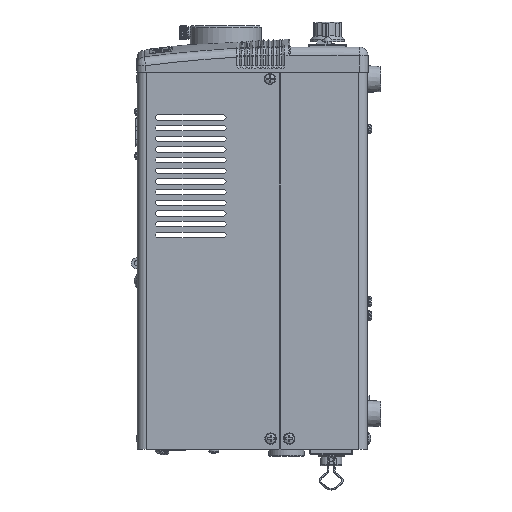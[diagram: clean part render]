
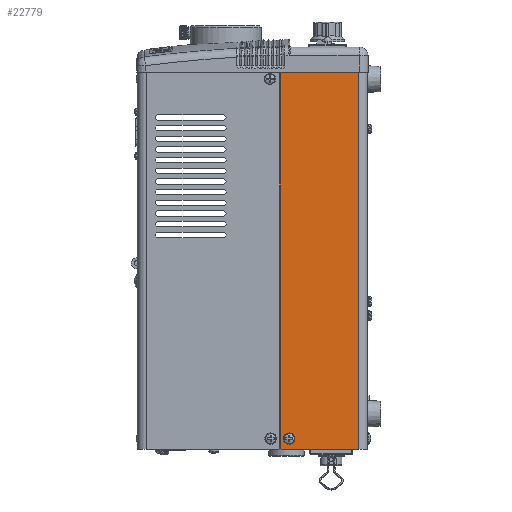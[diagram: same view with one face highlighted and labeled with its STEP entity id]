
A CAD part, left-side view. The second image highlights one B-rep face of the part: STEP entity #22779.
In plain terms, the highlighted planar face has unit normal (-1, 0, 0).
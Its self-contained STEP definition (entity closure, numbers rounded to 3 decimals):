
#1754 = VERTEX_POINT ( 'NONE', #124947 ) ;
#2674 = VERTEX_POINT ( 'NONE', #191480 ) ;
#7396 = PLANE ( 'NONE',  #55849 ) ;
#7995 = CARTESIAN_POINT ( 'NONE',  ( -57.5, -16.7, 0. ) ) ;
#13062 = CARTESIAN_POINT ( 'NONE',  ( -57.5, -20.7, -209.25 ) ) ;
#14444 = CARTESIAN_POINT ( 'NONE',  ( -57.5, -15.7, -211. ) ) ;
#16389 = VECTOR ( 'NONE', #88729, 1000. ) ;
#20531 = VERTEX_POINT ( 'NONE', #160945 ) ;
#22779 = ADVANCED_FACE ( 'NONE', ( #124287, #167290 ), #7396, .F. ) ;
#26968 = ORIENTED_EDGE ( 'NONE', *, *, #136898, .T. ) ;
#28103 = LINE ( 'NONE', #55151, #66036 ) ;
#31361 = AXIS2_PLACEMENT_3D ( 'NONE', #149328, #52442, #165515 ) ;
#31610 = AXIS2_PLACEMENT_3D ( 'NONE', #159711, #62921, #176021 ) ;
#34277 = DIRECTION ( 'NONE',  ( -1., 0., 0. ) ) ;
#34755 = ORIENTED_EDGE ( 'NONE', *, *, #113936, .T. ) ;
#39975 = DIRECTION ( 'NONE',  ( 1., 0., 0. ) ) ;
#46219 = DIRECTION ( 'NONE',  ( 0., 0., 1. ) ) ;
#52442 = DIRECTION ( 'NONE',  ( -1., 0., 0. ) ) ;
#52559 = VECTOR ( 'NONE', #141368, 1000. ) ;
#53800 = ORIENTED_EDGE ( 'NONE', *, *, #99850, .F. ) ;
#55151 = CARTESIAN_POINT ( 'NONE',  ( -57.5, -64.7, -212. ) ) ;
#55849 = AXIS2_PLACEMENT_3D ( 'NONE', #120518, #39975, #153064 ) ;
#62486 = CARTESIAN_POINT ( 'NONE',  ( -57.5, -59.7, 0. ) ) ;
#62921 = DIRECTION ( 'NONE',  ( -1., 0., 0. ) ) ;
#66036 = VECTOR ( 'NONE', #185227, 1000. ) ;
#72211 = CIRCLE ( 'NONE', #202607, 1. ) ;
#73968 = CIRCLE ( 'NONE', #31610, 3.25 ) ;
#75711 = EDGE_CURVE ( 'NONE', #121665, #97353, #145475, .T. ) ;
#80461 = LINE ( 'NONE', #62486, #128548 ) ;
#82989 = EDGE_CURVE ( 'NONE', #1754, #2674, #80461, .T. ) ;
#88729 = DIRECTION ( 'NONE',  ( 0., 0., -1. ) ) ;
#96394 = CARTESIAN_POINT ( 'NONE',  ( -57.5, -16.7, -211. ) ) ;
#97353 = VERTEX_POINT ( 'NONE', #14444 ) ;
#99850 = EDGE_CURVE ( 'NONE', #127640, #20531, #73968, .T. ) ;
#99882 = CARTESIAN_POINT ( 'NONE',  ( -57.5, -16.7, -212. ) ) ;
#105367 = VERTEX_POINT ( 'NONE', #7995 ) ;
#106709 = EDGE_CURVE ( 'NONE', #20531, #127640, #150984, .T. ) ;
#108388 = CARTESIAN_POINT ( 'NONE',  ( -57.5, -15.7, -1. ) ) ;
#112627 = DIRECTION ( 'NONE',  ( 0., 0., -1. ) ) ;
#113936 = EDGE_CURVE ( 'NONE', #158657, #1754, #28103, .T. ) ;
#120518 = CARTESIAN_POINT ( 'NONE',  ( -57.5, -64.7, 0. ) ) ;
#121665 = VERTEX_POINT ( 'NONE', #108388 ) ;
#124287 = FACE_BOUND ( 'NONE', #166413, .T. ) ;
#124947 = CARTESIAN_POINT ( 'NONE',  ( -57.5, -59.7, -212. ) ) ;
#125076 = CARTESIAN_POINT ( 'NONE',  ( -57.5, -64.7, 0. ) ) ;
#127640 = VERTEX_POINT ( 'NONE', #13062 ) ;
#128548 = VECTOR ( 'NONE', #46219, 1000. ) ;
#131121 = CARTESIAN_POINT ( 'NONE',  ( -57.5, -20.7, -206. ) ) ;
#131515 = ORIENTED_EDGE ( 'NONE', *, *, #143735, .T. ) ;
#136898 = EDGE_CURVE ( 'NONE', #97353, #158657, #72211, .T. ) ;
#141368 = DIRECTION ( 'NONE',  ( 0., -1., 0. ) ) ;
#143735 = EDGE_CURVE ( 'NONE', #105367, #121665, #193695, .T. ) ;
#145475 = LINE ( 'NONE', #169336, #16389 ) ;
#147420 = DIRECTION ( 'NONE',  ( 0., 0., 1. ) ) ;
#149026 = AXIS2_PLACEMENT_3D ( 'NONE', #131121, #34277, #147420 ) ;
#149328 = CARTESIAN_POINT ( 'NONE',  ( -57.5, -16.7, -1. ) ) ;
#150984 = CIRCLE ( 'NONE', #149026, 3.25 ) ;
#151743 = ORIENTED_EDGE ( 'NONE', *, *, #106709, .F. ) ;
#152975 = EDGE_CURVE ( 'NONE', #105367, #2674, #171459, .T. ) ;
#153064 = DIRECTION ( 'NONE',  ( 0., 0., -1. ) ) ;
#156124 = EDGE_LOOP ( 'NONE', ( #198978, #26968, #34755, #170004, #186372, #131515 ) ) ;
#158657 = VERTEX_POINT ( 'NONE', #99882 ) ;
#159711 = CARTESIAN_POINT ( 'NONE',  ( -57.5, -20.7, -206. ) ) ;
#160945 = CARTESIAN_POINT ( 'NONE',  ( -57.5, -20.7, -202.75 ) ) ;
#165515 = DIRECTION ( 'NONE',  ( 0., 0., -1. ) ) ;
#166413 = EDGE_LOOP ( 'NONE', ( #151743, #53800 ) ) ;
#167290 = FACE_OUTER_BOUND ( 'NONE', #156124, .T. ) ;
#169336 = CARTESIAN_POINT ( 'NONE',  ( -57.5, -15.7, 0. ) ) ;
#170004 = ORIENTED_EDGE ( 'NONE', *, *, #82989, .T. ) ;
#171459 = LINE ( 'NONE', #125076, #52559 ) ;
#176021 = DIRECTION ( 'NONE',  ( 0., 0., 1. ) ) ;
#185227 = DIRECTION ( 'NONE',  ( 0., -1., 0. ) ) ;
#186372 = ORIENTED_EDGE ( 'NONE', *, *, #152975, .F. ) ;
#191480 = CARTESIAN_POINT ( 'NONE',  ( -57.5, -59.7, 0. ) ) ;
#193695 = CIRCLE ( 'NONE', #31361, 1. ) ;
#198978 = ORIENTED_EDGE ( 'NONE', *, *, #75711, .T. ) ;
#202607 = AXIS2_PLACEMENT_3D ( 'NONE', #96394, #209479, #112627 ) ;
#209479 = DIRECTION ( 'NONE',  ( -1., 0., 0. ) ) ;
